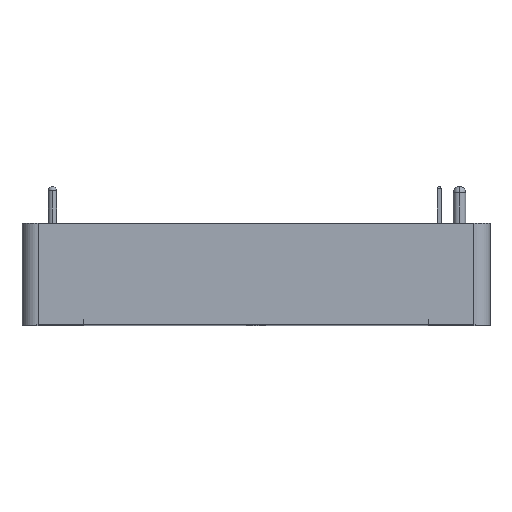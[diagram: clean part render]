
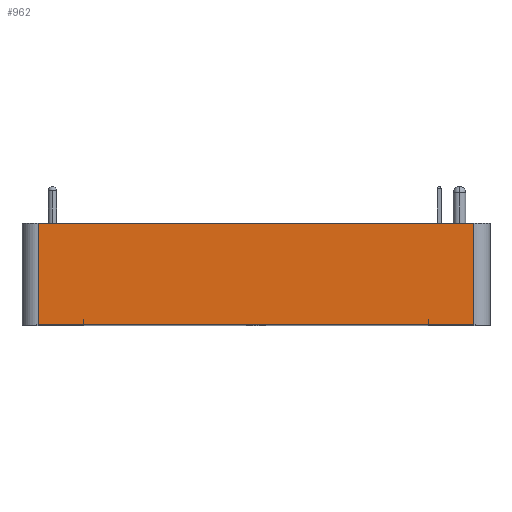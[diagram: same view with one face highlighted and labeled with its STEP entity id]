
A CAD part, top view. The second image highlights one B-rep face of the part: STEP entity #962.
In plain terms, the highlighted planar face has unit normal (0, 0, 1).
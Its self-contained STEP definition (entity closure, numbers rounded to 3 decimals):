
#19 = ORIENTED_EDGE ( 'NONE', *, *, #4614, .T. ) ;
#37 = VECTOR ( 'NONE', #4053, 1000. ) ;
#52 = VERTEX_POINT ( 'NONE', #4923 ) ;
#68 = CARTESIAN_POINT ( 'NONE',  ( -21.58, 0., 18.4 ) ) ;
#145 = CARTESIAN_POINT ( 'NONE',  ( -27.2, 0.7, 18.4 ) ) ;
#241 = DIRECTION ( 'NONE',  ( 0., 1., 0. ) ) ;
#266 = LINE ( 'NONE', #2321, #2324 ) ;
#293 = DIRECTION ( 'NONE',  ( -1., 0., 0. ) ) ;
#377 = DIRECTION ( 'NONE',  ( 0., 0., -1. ) ) ;
#415 = AXIS2_PLACEMENT_3D ( 'NONE', #4910, #377, #5029 ) ;
#605 = CARTESIAN_POINT ( 'NONE',  ( 27.2, 0., 18.4 ) ) ;
#642 = CARTESIAN_POINT ( 'NONE',  ( 21.555, 0., 18.4 ) ) ;
#727 = CARTESIAN_POINT ( 'NONE',  ( -21.555, 0., 18.4 ) ) ;
#962 = ADVANCED_FACE ( 'NONE', ( #5397 ), #2898, .F. ) ;
#963 = LINE ( 'NONE', #4605, #4859 ) ;
#1155 = EDGE_CURVE ( 'NONE', #2390, #4254, #266, .T. ) ;
#1319 = LINE ( 'NONE', #6332, #5810 ) ;
#1470 = LINE ( 'NONE', #6018, #4180 ) ;
#1489 = ORIENTED_EDGE ( 'NONE', *, *, #5262, .T. ) ;
#1549 = VERTEX_POINT ( 'NONE', #2571 ) ;
#1797 = DIRECTION ( 'NONE',  ( 1., 0., 0. ) ) ;
#1826 = DIRECTION ( 'NONE',  ( 0., 1., 0. ) ) ;
#1836 = CARTESIAN_POINT ( 'NONE',  ( -27.2, 12.7, 18.4 ) ) ;
#1906 = VECTOR ( 'NONE', #4680, 1000. ) ;
#1954 = EDGE_CURVE ( 'NONE', #2390, #3802, #6142, .T. ) ;
#1970 = CARTESIAN_POINT ( 'NONE',  ( -27.2, 0., 18.4 ) ) ;
#2056 = ORIENTED_EDGE ( 'NONE', *, *, #2666, .T. ) ;
#2173 = LINE ( 'NONE', #145, #1906 ) ;
#2202 = VECTOR ( 'NONE', #5880, 1000. ) ;
#2321 = CARTESIAN_POINT ( 'NONE',  ( -27.2, 0., 18.4 ) ) ;
#2324 = VECTOR ( 'NONE', #1797, 1000. ) ;
#2390 = VERTEX_POINT ( 'NONE', #3140 ) ;
#2496 = VERTEX_POINT ( 'NONE', #2719 ) ;
#2570 = LINE ( 'NONE', #4547, #37 ) ;
#2571 = CARTESIAN_POINT ( 'NONE',  ( -27.2, 0., 18.4 ) ) ;
#2655 = ORIENTED_EDGE ( 'NONE', *, *, #4574, .F. ) ;
#2656 = EDGE_CURVE ( 'NONE', #6390, #2496, #5872, .T. ) ;
#2666 = EDGE_CURVE ( 'NONE', #4254, #3554, #1319, .T. ) ;
#2719 = CARTESIAN_POINT ( 'NONE',  ( 21.58, 0., 18.4 ) ) ;
#2792 = LINE ( 'NONE', #1836, #2202 ) ;
#2898 = PLANE ( 'NONE',  #415 ) ;
#3005 = ORIENTED_EDGE ( 'NONE', *, *, #6344, .T. ) ;
#3084 = ORIENTED_EDGE ( 'NONE', *, *, #6272, .F. ) ;
#3140 = CARTESIAN_POINT ( 'NONE',  ( -21.555, 0., 18.4 ) ) ;
#3255 = EDGE_CURVE ( 'NONE', #4973, #2496, #2570, .T. ) ;
#3304 = CARTESIAN_POINT ( 'NONE',  ( -27.2, 12.7, 18.4 ) ) ;
#3452 = CARTESIAN_POINT ( 'NONE',  ( 27.2, 12.7, 18.4 ) ) ;
#3547 = ORIENTED_EDGE ( 'NONE', *, *, #1954, .F. ) ;
#3554 = VERTEX_POINT ( 'NONE', #4268 ) ;
#3729 = DIRECTION ( 'NONE',  ( 0., -1., 0. ) ) ;
#3754 = ORIENTED_EDGE ( 'NONE', *, *, #2656, .F. ) ;
#3802 = VERTEX_POINT ( 'NONE', #4927 ) ;
#3804 = VERTEX_POINT ( 'NONE', #3452 ) ;
#3827 = VECTOR ( 'NONE', #293, 1000. ) ;
#3864 = VECTOR ( 'NONE', #4052, 1000. ) ;
#3893 = ORIENTED_EDGE ( 'NONE', *, *, #6459, .F. ) ;
#4052 = DIRECTION ( 'NONE',  ( 0., 1., 0. ) ) ;
#4053 = DIRECTION ( 'NONE',  ( 0., -1., 0. ) ) ;
#4070 = VECTOR ( 'NONE', #241, 1000. ) ;
#4074 = ORIENTED_EDGE ( 'NONE', *, *, #4258, .T. ) ;
#4180 = VECTOR ( 'NONE', #5558, 1000. ) ;
#4211 = LINE ( 'NONE', #6208, #5999 ) ;
#4254 = VERTEX_POINT ( 'NONE', #642 ) ;
#4258 = EDGE_CURVE ( 'NONE', #6390, #3804, #5135, .T. ) ;
#4268 = CARTESIAN_POINT ( 'NONE',  ( 21.555, 0.7, 18.4 ) ) ;
#4389 = VERTEX_POINT ( 'NONE', #3304 ) ;
#4547 = CARTESIAN_POINT ( 'NONE',  ( 21.58, 1., 18.4 ) ) ;
#4574 = EDGE_CURVE ( 'NONE', #1549, #4389, #5595, .T. ) ;
#4598 = CARTESIAN_POINT ( 'NONE',  ( 21.58, 0.7, 18.4 ) ) ;
#4605 = CARTESIAN_POINT ( 'NONE',  ( -27.2, 0., 18.4 ) ) ;
#4614 = EDGE_CURVE ( 'NONE', #3554, #4973, #1470, .T. ) ;
#4680 = DIRECTION ( 'NONE',  ( 1., 0., 0. ) ) ;
#4715 = CARTESIAN_POINT ( 'NONE',  ( 27.2, 0., 18.4 ) ) ;
#4764 = ORIENTED_EDGE ( 'NONE', *, *, #3255, .T. ) ;
#4859 = VECTOR ( 'NONE', #5098, 1000. ) ;
#4910 = CARTESIAN_POINT ( 'NONE',  ( -27.2, 1., 18.4 ) ) ;
#4923 = CARTESIAN_POINT ( 'NONE',  ( -21.58, 0.7, 18.4 ) ) ;
#4927 = CARTESIAN_POINT ( 'NONE',  ( -21.555, 0.7, 18.4 ) ) ;
#4965 = VECTOR ( 'NONE', #5722, 1000. ) ;
#4973 = VERTEX_POINT ( 'NONE', #4598 ) ;
#5029 = DIRECTION ( 'NONE',  ( -1., 0., 0. ) ) ;
#5098 = DIRECTION ( 'NONE',  ( -1., 0., 0. ) ) ;
#5135 = LINE ( 'NONE', #605, #4070 ) ;
#5262 = EDGE_CURVE ( 'NONE', #3804, #4389, #2792, .T. ) ;
#5397 = FACE_OUTER_BOUND ( 'NONE', #6067, .T. ) ;
#5473 = CARTESIAN_POINT ( 'NONE',  ( -27.2, 0., 18.4 ) ) ;
#5558 = DIRECTION ( 'NONE',  ( 1., 0., 0. ) ) ;
#5595 = LINE ( 'NONE', #1970, #3864 ) ;
#5722 = DIRECTION ( 'NONE',  ( 0., 1., 0. ) ) ;
#5810 = VECTOR ( 'NONE', #1826, 1000. ) ;
#5872 = LINE ( 'NONE', #5473, #3827 ) ;
#5880 = DIRECTION ( 'NONE',  ( -1., 0., 0. ) ) ;
#5981 = ORIENTED_EDGE ( 'NONE', *, *, #1155, .T. ) ;
#5999 = VECTOR ( 'NONE', #3729, 1000. ) ;
#6018 = CARTESIAN_POINT ( 'NONE',  ( -27.2, 0.7, 18.4 ) ) ;
#6067 = EDGE_LOOP ( 'NONE', ( #3005, #3547, #5981, #2056, #19, #4764, #3754, #4074, #1489, #2655, #3084, #3893 ) ) ;
#6142 = LINE ( 'NONE', #727, #4965 ) ;
#6208 = CARTESIAN_POINT ( 'NONE',  ( -21.58, 1., 18.4 ) ) ;
#6272 = EDGE_CURVE ( 'NONE', #6307, #1549, #963, .T. ) ;
#6307 = VERTEX_POINT ( 'NONE', #68 ) ;
#6332 = CARTESIAN_POINT ( 'NONE',  ( 21.555, 0., 18.4 ) ) ;
#6344 = EDGE_CURVE ( 'NONE', #52, #3802, #2173, .T. ) ;
#6390 = VERTEX_POINT ( 'NONE', #4715 ) ;
#6459 = EDGE_CURVE ( 'NONE', #52, #6307, #4211, .T. ) ;
